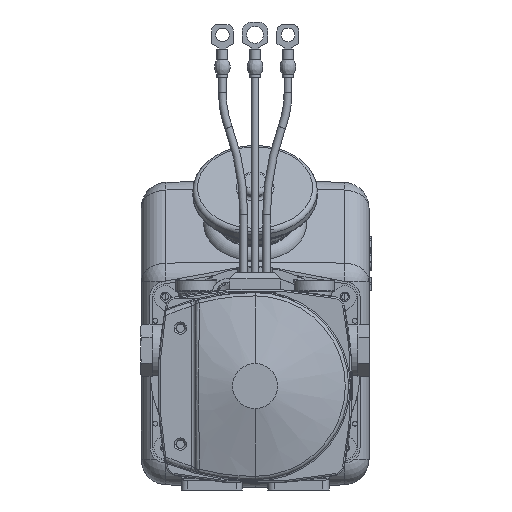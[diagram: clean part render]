
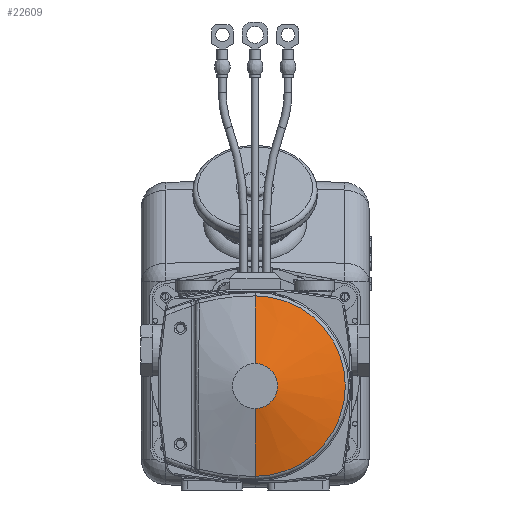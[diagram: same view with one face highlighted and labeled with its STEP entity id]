
A CAD part, front view. The second image highlights one B-rep face of the part: STEP entity #22609.
In plain terms, the highlighted conical face has half-angle 75 degrees and reference radius 27.841 mm.
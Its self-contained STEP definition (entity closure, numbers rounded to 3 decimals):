
#16988=DIRECTION('',(0.,-0.259,0.966));
#16989=VECTOR('',#16988,34.637);
#16990=CARTESIAN_POINT('',(0.,107.8,11.113));
#16991=LINE('',#16990,#16989);
#16992=DIRECTION('',(0.,-0.259,
-0.966));
#16993=VECTOR('',#16992,34.637);
#16994=CARTESIAN_POINT('',(0.,107.8,-11.113));
#16995=LINE('',#16994,#16993);
#16996=CARTESIAN_POINT('',(0.,98.835,0.));
#16997=DIRECTION('',(0.,1.,0.));
#16998=DIRECTION('',(0.,0.,1.));
#16999=AXIS2_PLACEMENT_3D('',#16996,#16997,#16998);
#17016=CARTESIAN_POINT('',(0.,107.8,0.));
#17017=DIRECTION('',(0.,1.,0.));
#17018=DIRECTION('',(0.,0.,1.));
#17019=AXIS2_PLACEMENT_3D('',#17016,#17017,#17018);
#20600=CARTESIAN_POINT('',(0.,107.8,-11.113));
#20601=CARTESIAN_POINT('',(0.,107.8,11.113));
#20602=VERTEX_POINT('',#20600);
#20603=VERTEX_POINT('',#20601);
#21262=CARTESIAN_POINT('',(0.,98.835,44.569));
#21263=CARTESIAN_POINT('',(0.,98.835,-44.569));
#21264=VERTEX_POINT('',#21262);
#21265=VERTEX_POINT('',#21263);
#22596=CARTESIAN_POINT('',(0.,103.318,0.));
#22597=DIRECTION('',(0.,-1.,0.));
#22598=DIRECTION('',(0.,0.,1.));
#22599=AXIS2_PLACEMENT_3D('',#22596,#22597,#22598);
#22600=CONICAL_SURFACE('',#22599,27.841,75.);
#22602=ORIENTED_EDGE('',*,*,#22601,.F.);
#22603=ORIENTED_EDGE('',*,*,#22590,.F.);
#22605=ORIENTED_EDGE('',*,*,#22604,.T.);
#22606=ORIENTED_EDGE('',*,*,#22586,.T.);
#22607=EDGE_LOOP('',(#22602,#22603,#22605,#22606));
#22608=FACE_OUTER_BOUND('',#22607,.F.);
#22609=ADVANCED_FACE('',(#22608),#22600,.T.);
#17000=CIRCLE('',#16999,44.569);
#17020=CIRCLE('',#17019,11.113);
#22586=EDGE_CURVE('',#20602,#21265,#16995,.T.);
#22590=EDGE_CURVE('',#20603,#21264,#16991,.T.);
#22601=EDGE_CURVE('',#21264,#21265,#17000,.T.);
#22604=EDGE_CURVE('',#20603,#20602,#17020,.T.);
